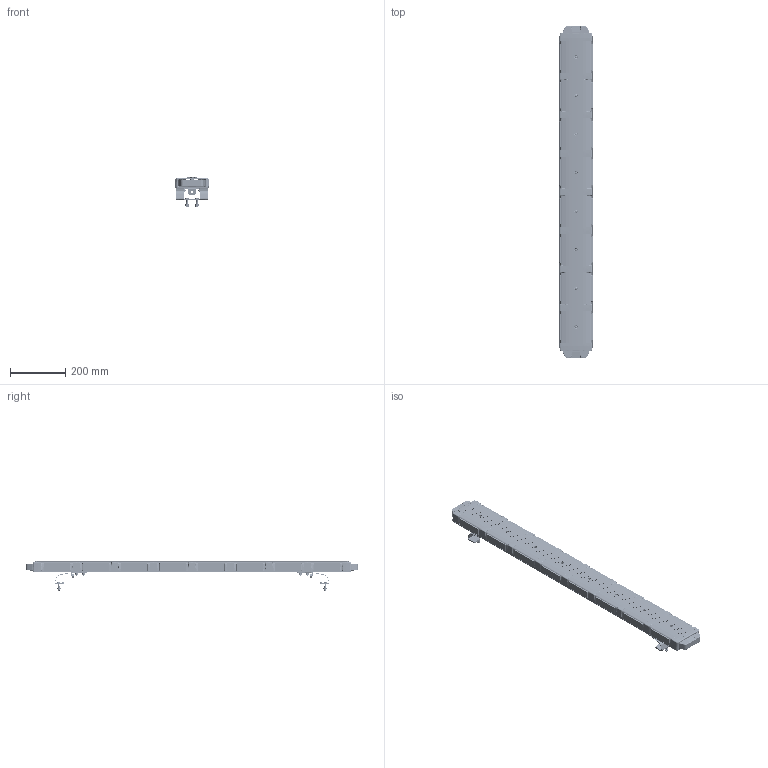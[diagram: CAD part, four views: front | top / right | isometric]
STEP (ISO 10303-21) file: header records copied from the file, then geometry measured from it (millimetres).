
FILE_DESCRIPTION((''),'2;1');
FILE_NAME('0-48-ASM_ASM','2021-12-27T13:57:07',('dell'),(''),'CREO PARAMETRIC BY PTC INC, 2021284','CREO PARAMETRIC BY PTC INC, 2021284','');
FILE_SCHEMA(('CONFIG_CONTROL_DESIGN','SHAPE_APPEARANCE_LAYERS_GROUPS'));
Products named in the file (233): SHANG_GAI; XIA_XING_CAI-48; M3X5_PING_BAO_TOU_LUO_DING; L200_P1; PCB_SF-L200-V1_02; L200_S2; PCB_L200-10LED-V1_02_1; PCB_L200-10LED-V1_02_2; PCB_L200-10LED-V1_02_3; PCB_L200-10LED-V1_02_4; PCB_L200-10LED-V1_02_5; PCB_L200-10LED-V1_02_6; PCB_L200-10LED-V1_02_7; PCB_L200-10LED-V1_02_8; PCB_L200-10LED-V1_02_9; PCB_L200-10LED-V1_02_10; PCB_L200-10LED-V1_02_11; PCB_L200-10LED-V1_02_12; PCB_L200-10LED-V1_02_13; PCB_L200-10LED-V1_02_14; PCB_L200-10LED-V1_02_15; PCB_L200-10LED-V1_02_16; PCB_L200-10LED-V1_02_17; PCB_L200-10LED-V1_02_18; PCB_L200-10LED-V1_02_19; PCB_L200-10LED-V1_02_ASM; L200_P2; L200_S1; L200_M2; L200_M1; 0-L200-ASM_ASM; CE_GAI; CE_GAI_GU_DING_BAN_F1; GB-T818_H-2000_M3X8; 0-CE_ZU_JIAN-ASM_ASM; GB-T818_H-2000_M5X12; QIAN_HOU_TOU_JING; QIAN_HOU_GU_DING_ZUO; LENS-4; QIAN_HOU_DENG_BAN_PCB_1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
Assembly tree (287 placements, depth 6):
  0-48-ASM_ASM
    0-48-ASM_1_ASM
      SHANG_GAI  x8
      XIA_XING_CAI-48
      0-CE_ZU_JIAN-ASM_ASM  x2
        0-L200-ASM_ASM
          M3X5_PING_BAO_TOU_LUO_DING  x2
          L200_P1
          PCB_SF-L200-V1_02
          L200_S2
          PCB_L200-10LED-V1_02_ASM
            PCB_L200-10LED-V1_02_1
            PCB_L200-10LED-V1_02_2
            PCB_L200-10LED-V1_02_3
            PCB_L200-10LED-V1_02_4
            PCB_L200-10LED-V1_02_5
            PCB_L200-10LED-V1_02_6
            PCB_L200-10LED-V1_02_7
            PCB_L200-10LED-V1_02_8
            PCB_L200-10LED-V1_02_9
            PCB_L200-10LED-V1_02_10
            PCB_L200-10LED-V1_02_11
            PCB_L200-10LED-V1_02_12
            PCB_L200-10LED-V1_02_13
            PCB_L200-10LED-V1_02_14
            PCB_L200-10LED-V1_02_15
            PCB_L200-10LED-V1_02_16
            PCB_L200-10LED-V1_02_17
            PCB_L200-10LED-V1_02_18
            PCB_L200-10LED-V1_02_19
          L200_P2
          L200_S1
          L200_M2
          L200_M1
        CE_GAI
        CE_GAI_GU_DING_BAN_F1
        GB-T818_H-2000_M3X8
      GB-T818_H-2000_M5X12  x10
      0-QIAN_HOU_DENG_ZU-ASM_ASM  x16
        QIAN_HOU_TOU_JING
        QIAN_HOU_GU_DING_ZUO
        LENS-4
        QIAN_HOU_DENG_BAN_PCB_ASM
          QIAN_HOU_DENG_BAN_PCB_1
          QIAN_HOU_DENG_BAN_PCB_2
          QIAN_HOU_DENG_BAN_PCB_3
          QIAN_HOU_DENG_BAN_PCB_4
          QIAN_HOU_DENG_BAN_PCB_5
          QIAN_HOU_DENG_BAN_PCB_6
          QIAN_HOU_DENG_BAN_PCB_7
          QIAN_HOU_DENG_BAN_PCB_8
          QIAN_HOU_DENG_BAN_PCB_9
        XI_JIAO_PIAN_ASM
          XI_JIAO_PIAN_1
          XI_JIAO_PIAN_2
        GB859-87_M4
      0-JIAO_JIA-ASM_ASM  x2
        JIAO_JIA_ASM
          JIAO_JIA_1
          JIAO_JIA_2
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Bounding box: 120.19 x 1205.4 x 106.49 mm (x, y, z)
Volume: 2121098.6 mm3; surface area: 2073522.3 mm2
Topology: 541 solids, 543 shells, 34279 faces, 88370 edges, 54990 vertices
Faces by surface type: plane 16548, bspline 7390, cylinder 6773, cone 1344, extrusion 826, torus 774, sphere 352, revolution 272
Entity records: 325830 total; most frequent: CARTESIAN_POINT 118089, ORIENTED_EDGE 35310, DIRECTION 29194, EDGE_CURVE 17664, PRESENTATION_STYLE_ASSIGNMENT 14399, STYLED_ITEM 14343, CURVE_STYLE 14298, VERTEX_POINT 11307
